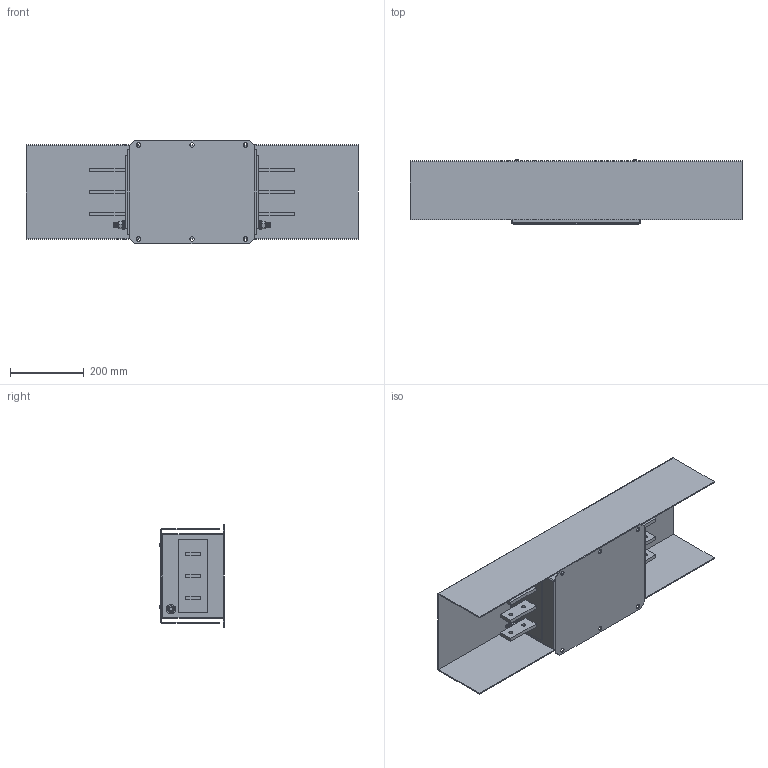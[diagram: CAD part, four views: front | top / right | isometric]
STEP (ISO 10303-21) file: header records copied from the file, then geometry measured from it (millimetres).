
FILE_DESCRIPTION (( 'STEP AP203' ), '1' );
FILE_NAME ('NF-800-STIE.STEP', '2015-01-20T10:08:18', ( 'Owner' ), ( 'EPA' ), 'SwSTEP 2.0', 'SolidWorks 2007', '' );
FILE_SCHEMA (( 'CONFIG_CONTROL_DESIGN' ));
Length unit declared in the file: millimetre
Products named in the file (8): NF-800-STIE; Formed Hex Screw_AM_B18.2.3.2M - Formed hex screw, M12 x 1.75 x 30 --30CS; M12x30 Earth post; Flat Washer Narrow_AM_B18.22M - Plain washer, 12 mm, narrow; Hex Nut Style 1_AM_B18.2.4.1M - Hex nut, Style 1,  M12 x 1.75 --D-N; High current protection cover 800; Pan Cross Head_AM_B18.6.7M - M4 x 0.7 x 8 Type I Cross Recessed PHMS --8N
Assembly tree (12 placements, depth 3):
  NF-800-STIE
    Pan Cross Head_AM_B18.6.7M - M4 x 0.7 x 8 Type I Cross Recessed PHMS --8N  x4
    NF-800-STIE
    M12x30 Earth post  x2
      Flat Washer Narrow_AM_B18.22M - Plain washer, 12 mm, narrow
      Hex Nut Style 1_AM_B18.2.4.1M - Hex nut, Style 1,  M12 x 1.75 --D-N
      Formed Hex Screw_AM_B18.2.3.2M - Formed hex screw, M12 x 1.75 x 30 --30CS
    High current protection cover 800
Bounding box: 900 x 176.07 x 280 mm (x, y, z)
Volume: 15652236.8 mm3; surface area: 1513590.9 mm2
Topology: 14 solids, 14 shells, 574 faces, 1398 edges, 868 vertices
Faces by surface type: cone 196, cylinder 182, plane 176, sphere 12, torus 8
Entity records: 11130 total; most frequent: CARTESIAN_POINT 1959, DIRECTION 1844, ORIENTED_EDGE 1636, EDGE_CURVE 818, AXIS2_PLACEMENT_3D 729, VERTEX_POINT 516, EDGE_LOOP 394, VECTOR 386
